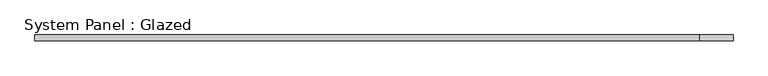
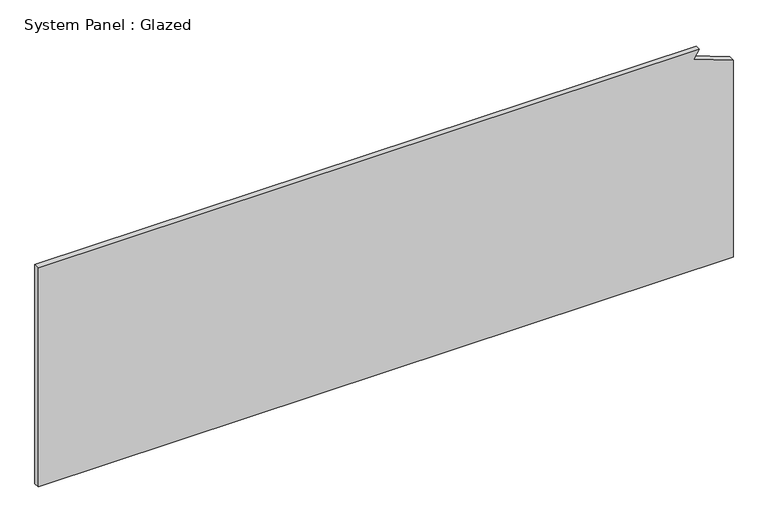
"""IFC4 building model written with IfcOpenShell, lengths in millimetres: plate geometry, System Panel : Glazed."""

from ifc_helpers import new_model, si_unit, frame, origin, place, context, project, spatial, polyline, outline, extrude, source, transform, mapped, element, save


def system_panel_glazed_03e450e4(model_context):
    return source(origin(), model_context, "Body", "SweptSolid", [
        extrude(outline(polyline([(0.0, -1504.95), (0.0, 1504.95), (903.2554197, 1504.95), (967.0911126, 1333.6223989), (1003.3, 1358.9434951), (1003.3, -1504.95), (0.0, -1504.95)])), frame((0.0, 19.05, 0.0), z_axis=(0.0, 1.0, 0.0), x_axis=(0.0, 0.0, 1.0)), (0.0, 0.0, 1.0), 25.4),
    ])


if __name__ == "__main__":
    model = new_model("IFC4")
    model_context = context("Model", 3, world=origin())
    ifc_project = project(units=[si_unit("LENGTHUNIT", "METRE", prefix="MILLI")], contexts=[model_context])
    site = spatial("IfcSite", under=ifc_project)
    building = spatial("IfcBuilding", under=site)
    placement = place(None, origin())
    system_panel_glazed_shape = system_panel_glazed_03e450e4(model_context)
    element("IfcPlate", 1, ObjectType="System Panel : Glazed", at=placement, inside=building, context=model_context, shape_type="MappedRepresentation", body=[
        mapped(system_panel_glazed_shape, transform((0.0, 0.0, 0.0), x_axis=(1.0, 0.0, 0.0), y_axis=(0.0, 1.0, 0.0), z_axis=(0.0, 0.0, 1.0))),
    ])
    save(model, "model.ifc")
